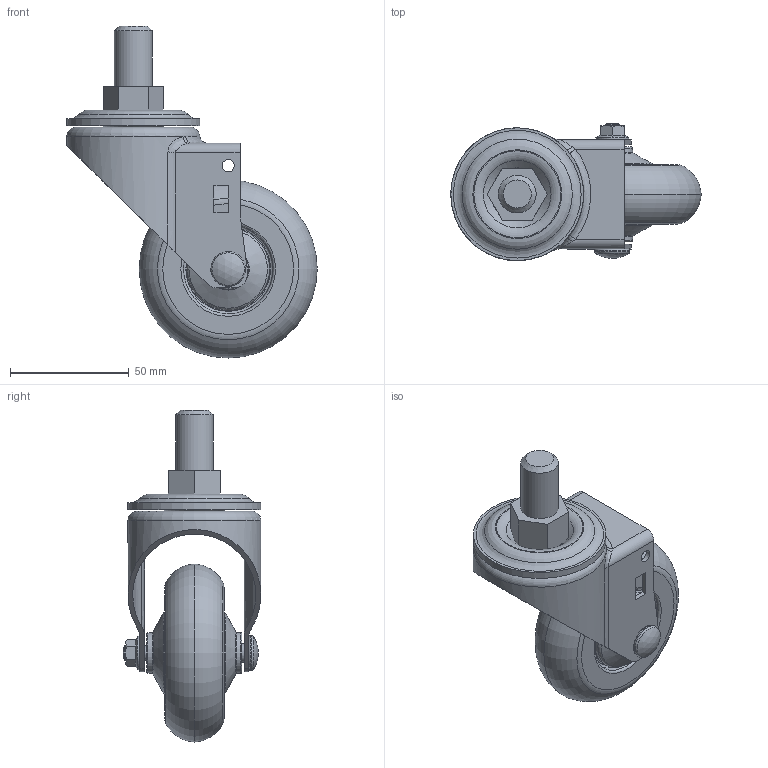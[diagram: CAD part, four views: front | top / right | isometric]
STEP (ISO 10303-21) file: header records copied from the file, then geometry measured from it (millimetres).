
FILE_DESCRIPTION(/* description */ (''),/* implementation_level */ '2;1');
FILE_NAME(/* name */ 'E:\홈피용도면\\X2\C2E0ADDCD648D398C774C9C0C6A9B3C4BA74\X0\\무소음캐스터\20160225-\X2\BB34C18CC74CCE90C2A4D130\X0\\GL-75-ASS.stp',/* time_stamp */ '2016-02-25T20:42:28+09:00',/* author */ ('장용하'),/* organization */ (''),/* preprocessor_version */ 'ST-DEVELOPER v15.6',/* originating_system */ 'Autodesk Inventor 2015',/* authorisation */ '');
FILE_SCHEMA (('AUTOMOTIVE_DESIGN { 1 0 10303 214 3 1 1 }'));
Length unit declared in the file: millimetre
Products named in the file (1): GL-75-ASS
Bounding box: 105.5 x 58 x 139.9 mm (x, y, z)
Volume: 135481.9 mm3; surface area: 49403.8 mm2
Topology: 2 solids, 2 shells, 217 faces, 469 edges, 288 vertices
Faces by surface type: plane 76, torus 63, cylinder 32, cone 31, bspline 14, sphere 1
Full cylindrical faces by diameter (mm): 5.2 x2, 6 x2, 6.2 x1, 7 x1, 8 x1, 11 x1, 11.2 x1, 14 x1, 14.6 x1, 15.875 x1, 24.645 x1, 41 x1, 56 x1
Entity records: 6793 total; most frequent: CARTESIAN_POINT 2500, DIRECTION 900, ORIENTED_EDGE 730, AXIS2_PLACEMENT_3D 396, EDGE_CURVE 365, EDGE_LOOP 360, VERTEX_POINT 281, FACE_OUTER_BOUND 217
